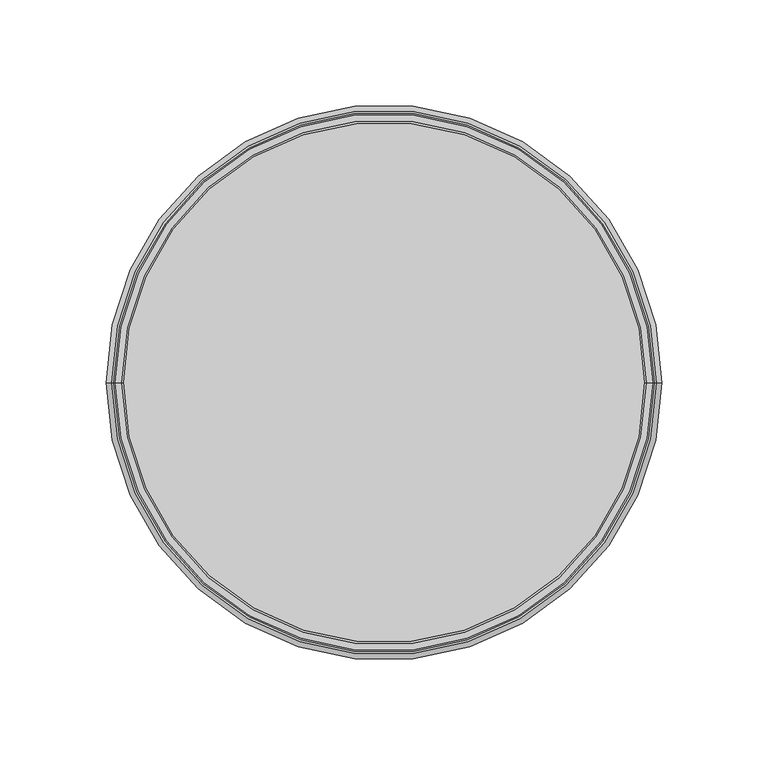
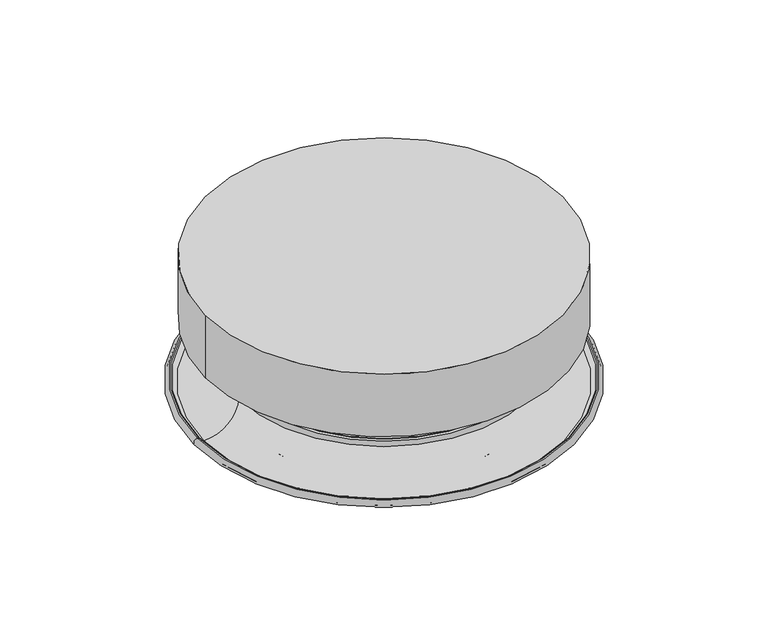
"""IFC4 building model written with IfcOpenShell, lengths in millimetres: air terminal geometry, AI_Bouche aération_Circulaire Reprise : ø250 mm."""

from ifc_helpers import new_model, si_unit, point, frame, origin, origin_2d, place, context, project, spatial, circle_curve, ellipse_curve, trimmed, segment, composite_curve, outline, extrude, source, transform, mapped, element, save
from ifc_brep_helpers import plane_surface, cylinder_surface, revolved_surface, advanced_brep


def air_terminal_f661baf0(model_context):
    return source(origin(), model_context, "Body", "SolidModel", [
        extrude(outline(composite_curve([segment(trimmed(circle_curve(origin_2d(), 122.5), [point((122.5, 0.0))], [point((-122.5, 0.0))], False, "CARTESIAN"), True, "CONTINUOUS"), segment(trimmed(circle_curve(origin_2d(), 122.5), [point((-122.5, 0.0))], [point((122.5, 0.0))], False, "CARTESIAN"), True, "CONTINUOUS")], self_intersect=False)), frame((0.0, 0.0, 41.2), z_axis=(0.0, 0.0, 1.0), x_axis=(1.0, 0.0, 0.0)), (0.0, 0.0, 1.0), 45.4),
        advanced_brep(
        [(-97.4021074, 0.0, 20.3), (97.4021074, 0.0, 20.3), (99.6975243, 0.0, 18.1451243), (-99.6975243, 0.0, 18.1451243), (-95.0, 0.0, 20.3), (95.0, 0.0, 20.3), (-95.0, 0.0, 19.0), (95.0, 0.0, 19.0), (-97.4021074, 0.0, 19.0), (97.4021074, 0.0, 19.0), (-98.4001147, 0.0, 18.0630975), (98.4001147, 0.0, 18.0630975), (-123.5, 0.0, -5.5), (123.5, 0.0, -5.5), (-128.27, 0.0, -5.5), (128.27, 0.0, -5.5), (-128.27, 0.0, -0.7), (128.27, 0.0, -0.7), (-127.27, 0.0, -0.7), (127.27, 0.0, -0.7), (-127.27, 0.0, -2.0), (127.27, 0.0, -2.0), (-128.27, 0.0, -2.0), (128.27, 0.0, -2.0), (-128.27, 0.0, -4.2), (128.27, 0.0, -4.2), (-123.5, 0.0, -4.2), (123.5, 0.0, -4.2)],
        [
            (0, 1, circle_curve(frame((0.0, 0.0, 20.3), z_axis=(0.0, 0.0, -1.0), x_axis=(1.0, 0.0, 0.0)), 97.4021074)),
            (1, 2, circle_curve(frame((97.4021074, 0.0, 18.0), z_axis=(0.0, 1.0, 0.0), x_axis=(1.0, 0.0, 0.0)), 2.3)),
            (2, 3, circle_curve(frame((0.0, 0.0, 18.1451243), z_axis=(0.0, 0.0, 1.0), x_axis=(1.0, 0.0, 0.0)), 99.6975243)),
            (3, 0, circle_curve(frame((-97.4021074, 0.0, 18.0), z_axis=(0.0, 1.0, 0.0), x_axis=(-1.0, 0.0, 0.0)), 2.3)),
            (1, 0, circle_curve(frame((0.0, 0.0, 20.3), z_axis=(0.0, 0.0, -1.0), x_axis=(1.0, 0.0, 0.0)), 97.4021074)),
            (3, 2, circle_curve(frame((0.0, 0.0, 18.1451243), z_axis=(0.0, 0.0, 1.0), x_axis=(1.0, 0.0, 0.0)), 99.6975243)),
            (4, 5, circle_curve(frame((0.0, 0.0, 20.3), z_axis=(0.0, 0.0, -1.0), x_axis=(1.0, 0.0, 0.0)), 95.0)),
            (5, 1),
            (0, 4),
            (5, 4, circle_curve(frame((0.0, 0.0, 20.3), z_axis=(0.0, 0.0, -1.0), x_axis=(1.0, 0.0, 0.0)), 95.0)),
            (6, 7, circle_curve(frame((0.0, 0.0, 19.0), z_axis=(0.0, 0.0, -1.0), x_axis=(1.0, 0.0, 0.0)), 95.0)),
            (7, 5, circle_curve(frame((95.0, 0.0, 19.65), z_axis=(0.0, 1.0, 0.0), x_axis=(1.0, 0.0, 0.0)), 0.65)),
            (4, 6, circle_curve(frame((-95.0, 0.0, 19.65), z_axis=(0.0, 1.0, 0.0), x_axis=(-1.0, 0.0, 0.0)), 0.65)),
            (7, 6, circle_curve(frame((0.0, 0.0, 19.0), z_axis=(0.0, 0.0, -1.0), x_axis=(1.0, 0.0, 0.0)), 95.0)),
            (8, 9, circle_curve(frame((0.0, 0.0, 19.0), z_axis=(0.0, 0.0, -1.0), x_axis=(1.0, 0.0, 0.0)), 97.4021074)),
            (9, 7),
            (6, 8),
            (9, 8, circle_curve(frame((0.0, 0.0, 19.0), z_axis=(0.0, 0.0, -1.0), x_axis=(1.0, 0.0, 0.0)), 97.4021074)),
            (10, 11, circle_curve(frame((0.0, 0.0, 18.0630975), z_axis=(0.0, 0.0, -1.0), x_axis=(1.0, 0.0, 0.0)), 98.4001147)),
            (11, 9, circle_curve(frame((97.4021074, 0.0, 18.0), z_axis=(0.0, -1.0, 0.0), x_axis=(1.0, 0.0, 0.0)), 1.0)),
            (8, 10, circle_curve(frame((-97.4021074, 0.0, 18.0), z_axis=(0.0, -1.0, 0.0), x_axis=(-1.0, 0.0, 0.0)), 1.0)),
            (11, 10, circle_curve(frame((0.0, 0.0, 18.0630975), z_axis=(0.0, 0.0, -1.0), x_axis=(1.0, 0.0, 0.0)), 98.4001147)),
            (12, 13, circle_curve(frame((0.0, 0.0, -5.5), z_axis=(0.0, 0.0, -1.0), x_axis=(1.0, 0.0, 0.0)), 123.5)),
            (13, 11, circle_curve(frame((123.5, 0.0, 19.65), z_axis=(0.0, 1.0, 0.0), x_axis=(1.0, 0.0, 0.0)), 25.15)),
            (10, 12, circle_curve(frame((-123.5, 0.0, 19.65), z_axis=(0.0, 1.0, 0.0), x_axis=(-1.0, 0.0, 0.0)), 25.15)),
            (13, 12, circle_curve(frame((0.0, 0.0, -5.5), z_axis=(0.0, 0.0, -1.0), x_axis=(1.0, 0.0, 0.0)), 123.5)),
            (14, 15, circle_curve(frame((0.0, 0.0, -5.5), z_axis=(0.0, 0.0, -1.0), x_axis=(1.0, 0.0, 0.0)), 128.27)),
            (15, 13),
            (12, 14),
            (15, 14, circle_curve(frame((0.0, 0.0, -5.5), z_axis=(0.0, 0.0, -1.0), x_axis=(1.0, 0.0, 0.0)), 128.27)),
            (16, 17, circle_curve(frame((0.0, 0.0, -0.7), z_axis=(0.0, 0.0, -1.0), x_axis=(1.0, 0.0, 0.0)), 128.27)),
            (17, 15, circle_curve(frame((128.27, 0.0, -3.1), z_axis=(0.0, 1.0, 0.0), x_axis=(1.0, 0.0, 0.0)), 2.4)),
            (14, 16, circle_curve(frame((-128.27, 0.0, -3.1), z_axis=(0.0, 1.0, 0.0), x_axis=(-1.0, 0.0, 0.0)), 2.4)),
            (17, 16, circle_curve(frame((0.0, 0.0, -0.7), z_axis=(0.0, 0.0, -1.0), x_axis=(1.0, 0.0, 0.0)), 128.27)),
            (18, 19, circle_curve(frame((0.0, 0.0, -0.7), z_axis=(0.0, 0.0, -1.0), x_axis=(1.0, 0.0, 0.0)), 127.27)),
            (19, 17),
            (16, 18),
            (19, 18, circle_curve(frame((0.0, 0.0, -0.7), z_axis=(0.0, 0.0, -1.0), x_axis=(1.0, 0.0, 0.0)), 127.27)),
            (20, 21, circle_curve(frame((0.0, 0.0, -2.0), z_axis=(0.0, 0.0, -1.0), x_axis=(1.0, 0.0, 0.0)), 127.27)),
            (21, 19, circle_curve(frame((127.27, 0.0, -1.35), z_axis=(0.0, 1.0, 0.0), x_axis=(1.0, 0.0, 0.0)), 0.65)),
            (18, 20, circle_curve(frame((-127.27, 0.0, -1.35), z_axis=(0.0, 1.0, 0.0), x_axis=(-1.0, 0.0, 0.0)), 0.65)),
            (21, 20, circle_curve(frame((0.0, 0.0, -2.0), z_axis=(0.0, 0.0, -1.0), x_axis=(1.0, 0.0, 0.0)), 127.27)),
            (22, 23, circle_curve(frame((0.0, 0.0, -2.0), z_axis=(0.0, 0.0, -1.0), x_axis=(1.0, 0.0, 0.0)), 128.27)),
            (23, 21),
            (20, 22),
            (23, 22, circle_curve(frame((0.0, 0.0, -2.0), z_axis=(0.0, 0.0, -1.0), x_axis=(1.0, 0.0, 0.0)), 128.27)),
            (24, 25, circle_curve(frame((0.0, 0.0, -4.2), z_axis=(0.0, 0.0, -1.0), x_axis=(1.0, 0.0, 0.0)), 128.27)),
            (25, 23, circle_curve(frame((128.27, 0.0, -3.1), z_axis=(0.0, -1.0, 0.0), x_axis=(1.0, 0.0, 0.0)), 1.1)),
            (22, 24, circle_curve(frame((-128.27, 0.0, -3.1), z_axis=(0.0, -1.0, 0.0), x_axis=(-1.0, 0.0, 0.0)), 1.1)),
            (25, 24, circle_curve(frame((0.0, 0.0, -4.2), z_axis=(0.0, 0.0, -1.0), x_axis=(1.0, 0.0, 0.0)), 128.27)),
            (26, 27, circle_curve(frame((0.0, 0.0, -4.2), z_axis=(0.0, 0.0, -1.0), x_axis=(1.0, 0.0, 0.0)), 123.5)),
            (27, 25),
            (24, 26),
            (27, 26, circle_curve(frame((0.0, 0.0, -4.2), z_axis=(0.0, 0.0, -1.0), x_axis=(1.0, 0.0, 0.0)), 123.5)),
            (2, 27, circle_curve(frame((123.5, 0.0, 19.65), z_axis=(0.0, -1.0, 0.0), x_axis=(1.0, 0.0, 0.0)), 23.85)),
            (26, 3, circle_curve(frame((-123.5, 0.0, 19.65), z_axis=(0.0, -1.0, 0.0), x_axis=(-1.0, 0.0, 0.0)), 23.85)),
        ],
        [
            revolved_surface(trimmed(ellipse_curve(frame((97.4021074, 0.0, 18.0), z_axis=(0.0, -1.0, 0.0), x_axis=(1.0, 0.0, 0.0)), 2.3, 2.3), [point((99.6975243, 0.0, 18.1451243))], [point((97.4021074, 0.0, 20.3))], True, "CARTESIAN"), (0.0, 0.0, 1789.7688894), (0.0, 0.0, 1.0)),
            plane_surface(frame((0.0, 0.0, 20.3), z_axis=(0.0, 0.0, 1.0), x_axis=(1.0, 0.0, 0.0))),
            revolved_surface(trimmed(ellipse_curve(frame((95.0, 0.0, 19.65), z_axis=(0.0, -1.0, 0.0), x_axis=(1.0, 0.0, 0.0)), 0.65, 0.65), [point((95.0, 0.0, 20.3))], [point((95.0, 0.0, 19.0))], True, "CARTESIAN"), (0.0, 0.0, 1789.7688894), (0.0, 0.0, 1.0)),
            plane_surface(frame((0.0, 0.0, 19.0), z_axis=(0.0, 0.0, -1.0), x_axis=(1.0, 0.0, 0.0))),
            revolved_surface(trimmed(ellipse_curve(frame((97.4021074, 0.0, 18.0), z_axis=(0.0, 1.0, 0.0), x_axis=(1.0, 0.0, 0.0)), 1.0, 1.0), [point((97.4021074, 0.0, 19.0))], [point((98.4001147, 0.0, 18.0630975))], True, "CARTESIAN"), (0.0, 0.0, 1789.7688894), (0.0, 0.0, 1.0)),
            revolved_surface(trimmed(ellipse_curve(frame((123.5, 0.0, 19.65), z_axis=(0.0, -1.0, 0.0), x_axis=(1.0, 0.0, 0.0)), 25.15, 25.15), [point((98.4001147, 0.0, 18.0630975))], [point((123.5, 0.0, -5.5))], True, "CARTESIAN"), (0.0, 0.0, 1789.7688894), (0.0, 0.0, 1.0)),
            plane_surface(frame((0.0, 0.0, -5.5), z_axis=(0.0, 0.0, -1.0), x_axis=(1.0, 0.0, 0.0))),
            revolved_surface(trimmed(ellipse_curve(frame((128.27, 0.0, -3.1), z_axis=(0.0, -1.0, 0.0), x_axis=(1.0, 0.0, 0.0)), 2.4, 2.4), [point((128.27, 0.0, -5.5))], [point((128.27, 0.0, -0.7))], True, "CARTESIAN"), (0.0, 0.0, 1789.7688894), (0.0, 0.0, 1.0)),
            plane_surface(frame((0.0, 0.0, -0.7), z_axis=(0.0, 0.0, 1.0), x_axis=(1.0, 0.0, 0.0))),
            revolved_surface(trimmed(ellipse_curve(frame((127.27, 0.0, -1.35), z_axis=(0.0, -1.0, 0.0), x_axis=(1.0, 0.0, 0.0)), 0.65, 0.65), [point((127.27, 0.0, -0.7))], [point((127.27, 0.0, -2.0))], True, "CARTESIAN"), (0.0, 0.0, 1789.7688894), (0.0, 0.0, 1.0)),
            plane_surface(frame((0.0, 0.0, -2.0), z_axis=(0.0, 0.0, -1.0), x_axis=(1.0, 0.0, 0.0))),
            revolved_surface(trimmed(ellipse_curve(frame((128.27, 0.0, -3.1), z_axis=(0.0, 1.0, 0.0), x_axis=(1.0, 0.0, 0.0)), 1.1, 1.1), [point((128.27, 0.0, -2.0))], [point((128.27, 0.0, -4.2))], True, "CARTESIAN"), (0.0, 0.0, 1789.7688894), (0.0, 0.0, 1.0)),
            plane_surface(frame((0.0, 0.0, -4.2), z_axis=(0.0, 0.0, 1.0), x_axis=(1.0, 0.0, 0.0))),
            revolved_surface(trimmed(ellipse_curve(frame((123.5, 0.0, 19.65), z_axis=(0.0, 1.0, 0.0), x_axis=(1.0, 0.0, 0.0)), 23.85, 23.85), [point((123.5, 0.0, -4.2))], [point((99.6975243, 0.0, 18.1451243))], True, "CARTESIAN"), (0.0, 0.0, 1789.7688894), (0.0, 0.0, 1.0)),
        ],
        [
            (0, [[1, 2, 3, 4]]),
            (0, [[5, -4, 6, -2]]),
            (1, [[7, 8, -1, 9]]),
            (1, [[10, -9, -5, -8]]),
            (2, [[11, 12, -7, 13]]),
            (2, [[14, -13, -10, -12]]),
            (3, [[15, 16, -11, 17]]),
            (3, [[18, -17, -14, -16]]),
            (4, [[19, 20, -15, 21]]),
            (4, [[22, -21, -18, -20]]),
            (5, [[23, 24, -19, 25]]),
            (5, [[26, -25, -22, -24]]),
            (6, [[27, 28, -23, 29]]),
            (6, [[30, -29, -26, -28]]),
            (7, [[31, 32, -27, 33]]),
            (7, [[34, -33, -30, -32]]),
            (8, [[35, 36, -31, 37]]),
            (8, [[38, -37, -34, -36]]),
            (9, [[39, 40, -35, 41]]),
            (9, [[42, -41, -38, -40]]),
            (10, [[43, 44, -39, 45]]),
            (10, [[46, -45, -42, -44]]),
            (11, [[47, 48, -43, 49]]),
            (11, [[50, -49, -46, -48]]),
            (12, [[51, 52, -47, 53]]),
            (12, [[54, -53, -50, -52]]),
            (13, [[-3, 55, -51, 56]]),
            (13, [[-6, -56, -54, -55]]),
        ],
    ),
        advanced_brep(
        [(-72.4021074, 0.0, 20.3), (72.4021074, 0.0, 20.3), (74.6975243, 0.0, 18.1451243), (-74.6975243, 0.0, 18.1451243), (-70.0, 0.0, 20.3), (70.0, 0.0, 20.3), (-70.0, 0.0, 19.0), (70.0, 0.0, 19.0), (-72.4021074, 0.0, 19.0), (72.4021074, 0.0, 19.0), (-73.4001147, 0.0, 18.0630975), (73.4001147, 0.0, 18.0630975), (-98.5, 0.0, -5.5), (98.5, 0.0, -5.5), (-103.27, 0.0, -5.5), (103.27, 0.0, -5.5), (-103.27, 0.0, -0.7), (103.27, 0.0, -0.7), (-102.27, 0.0, -0.7), (102.27, 0.0, -0.7), (-102.27, 0.0, -2.0), (102.27, 0.0, -2.0), (-103.27, 0.0, -2.0), (103.27, 0.0, -2.0), (-103.27, 0.0, -4.2), (103.27, 0.0, -4.2), (-98.5, 0.0, -4.2), (98.5, 0.0, -4.2)],
        [
            (0, 1, circle_curve(frame((0.0, 0.0, 20.3), z_axis=(0.0, 0.0, -1.0), x_axis=(1.0, 0.0, 0.0)), 72.4021074)),
            (1, 2, circle_curve(frame((72.4021074, 0.0, 18.0), z_axis=(0.0, 1.0, 0.0), x_axis=(1.0, 0.0, 0.0)), 2.3)),
            (2, 3, circle_curve(frame((0.0, 0.0, 18.1451243), z_axis=(0.0, 0.0, 1.0), x_axis=(1.0, 0.0, 0.0)), 74.6975243)),
            (3, 0, circle_curve(frame((-72.4021074, 0.0, 18.0), z_axis=(0.0, 1.0, 0.0), x_axis=(-1.0, 0.0, 0.0)), 2.3)),
            (1, 0, circle_curve(frame((0.0, 0.0, 20.3), z_axis=(0.0, 0.0, -1.0), x_axis=(1.0, 0.0, 0.0)), 72.4021074)),
            (3, 2, circle_curve(frame((0.0, 0.0, 18.1451243), z_axis=(0.0, 0.0, 1.0), x_axis=(1.0, 0.0, 0.0)), 74.6975243)),
            (4, 5, circle_curve(frame((0.0, 0.0, 20.3), z_axis=(0.0, 0.0, -1.0), x_axis=(1.0, 0.0, 0.0)), 70.0)),
            (5, 1),
            (0, 4),
            (5, 4, circle_curve(frame((0.0, 0.0, 20.3), z_axis=(0.0, 0.0, -1.0), x_axis=(1.0, 0.0, 0.0)), 70.0)),
            (6, 7, circle_curve(frame((0.0, 0.0, 19.0), z_axis=(0.0, 0.0, -1.0), x_axis=(1.0, 0.0, 0.0)), 70.0)),
            (7, 5, circle_curve(frame((70.0, 0.0, 19.65), z_axis=(0.0, 1.0, 0.0), x_axis=(1.0, 0.0, 0.0)), 0.65)),
            (4, 6, circle_curve(frame((-70.0, 0.0, 19.65), z_axis=(0.0, 1.0, 0.0), x_axis=(-1.0, 0.0, 0.0)), 0.65)),
            (7, 6, circle_curve(frame((0.0, 0.0, 19.0), z_axis=(0.0, 0.0, -1.0), x_axis=(1.0, 0.0, 0.0)), 70.0)),
            (8, 9, circle_curve(frame((0.0, 0.0, 19.0), z_axis=(0.0, 0.0, -1.0), x_axis=(1.0, 0.0, 0.0)), 72.4021074)),
            (9, 7),
            (6, 8),
            (9, 8, circle_curve(frame((0.0, 0.0, 19.0), z_axis=(0.0, 0.0, -1.0), x_axis=(1.0, 0.0, 0.0)), 72.4021074)),
            (10, 11, circle_curve(frame((0.0, 0.0, 18.0630975), z_axis=(0.0, 0.0, -1.0), x_axis=(1.0, 0.0, 0.0)), 73.4001147)),
            (11, 9, circle_curve(frame((72.4021074, 0.0, 18.0), z_axis=(0.0, -1.0, 0.0), x_axis=(1.0, 0.0, 0.0)), 1.0)),
            (8, 10, circle_curve(frame((-72.4021074, 0.0, 18.0), z_axis=(0.0, -1.0, 0.0), x_axis=(-1.0, 0.0, 0.0)), 1.0)),
            (11, 10, circle_curve(frame((0.0, 0.0, 18.0630975), z_axis=(0.0, 0.0, -1.0), x_axis=(1.0, 0.0, 0.0)), 73.4001147)),
            (12, 13, circle_curve(frame((0.0, 0.0, -5.5), z_axis=(0.0, 0.0, -1.0), x_axis=(1.0, 0.0, 0.0)), 98.5)),
            (13, 11, circle_curve(frame((98.5, 0.0, 19.65), z_axis=(0.0, 1.0, 0.0), x_axis=(1.0, 0.0, 0.0)), 25.15)),
            (10, 12, circle_curve(frame((-98.5, 0.0, 19.65), z_axis=(0.0, 1.0, 0.0), x_axis=(-1.0, 0.0, 0.0)), 25.15)),
            (13, 12, circle_curve(frame((0.0, 0.0, -5.5), z_axis=(0.0, 0.0, -1.0), x_axis=(1.0, 0.0, 0.0)), 98.5)),
            (14, 15, circle_curve(frame((0.0, 0.0, -5.5), z_axis=(0.0, 0.0, -1.0), x_axis=(1.0, 0.0, 0.0)), 103.27)),
            (15, 13),
            (12, 14),
            (15, 14, circle_curve(frame((0.0, 0.0, -5.5), z_axis=(0.0, 0.0, -1.0), x_axis=(1.0, 0.0, 0.0)), 103.27)),
            (16, 17, circle_curve(frame((0.0, 0.0, -0.7), z_axis=(0.0, 0.0, -1.0), x_axis=(1.0, 0.0, 0.0)), 103.27)),
            (17, 15, circle_curve(frame((103.27, 0.0, -3.1), z_axis=(0.0, 1.0, 0.0), x_axis=(1.0, 0.0, 0.0)), 2.4)),
            (14, 16, circle_curve(frame((-103.27, 0.0, -3.1), z_axis=(0.0, 1.0, 0.0), x_axis=(-1.0, 0.0, 0.0)), 2.4)),
            (17, 16, circle_curve(frame((0.0, 0.0, -0.7), z_axis=(0.0, 0.0, -1.0), x_axis=(1.0, 0.0, 0.0)), 103.27)),
            (18, 19, circle_curve(frame((0.0, 0.0, -0.7), z_axis=(0.0, 0.0, -1.0), x_axis=(1.0, 0.0, 0.0)), 102.27)),
            (19, 17),
            (16, 18),
            (19, 18, circle_curve(frame((0.0, 0.0, -0.7), z_axis=(0.0, 0.0, -1.0), x_axis=(1.0, 0.0, 0.0)), 102.27)),
            (20, 21, circle_curve(frame((0.0, 0.0, -2.0), z_axis=(0.0, 0.0, -1.0), x_axis=(1.0, 0.0, 0.0)), 102.27)),
            (21, 19, circle_curve(frame((102.27, 0.0, -1.35), z_axis=(0.0, 1.0, 0.0), x_axis=(1.0, 0.0, 0.0)), 0.65)),
            (18, 20, circle_curve(frame((-102.27, 0.0, -1.35), z_axis=(0.0, 1.0, 0.0), x_axis=(-1.0, 0.0, 0.0)), 0.65)),
            (21, 20, circle_curve(frame((0.0, 0.0, -2.0), z_axis=(0.0, 0.0, -1.0), x_axis=(1.0, 0.0, 0.0)), 102.27)),
            (22, 23, circle_curve(frame((0.0, 0.0, -2.0), z_axis=(0.0, 0.0, -1.0), x_axis=(1.0, 0.0, 0.0)), 103.27)),
            (23, 21),
            (20, 22),
            (23, 22, circle_curve(frame((0.0, 0.0, -2.0), z_axis=(0.0, 0.0, -1.0), x_axis=(1.0, 0.0, 0.0)), 103.27)),
            (24, 25, circle_curve(frame((0.0, 0.0, -4.2), z_axis=(0.0, 0.0, -1.0), x_axis=(1.0, 0.0, 0.0)), 103.27)),
            (25, 23, circle_curve(frame((103.27, 0.0, -3.1), z_axis=(0.0, -1.0, 0.0), x_axis=(1.0, 0.0, 0.0)), 1.1)),
            (22, 24, circle_curve(frame((-103.27, 0.0, -3.1), z_axis=(0.0, -1.0, 0.0), x_axis=(-1.0, 0.0, 0.0)), 1.1)),
            (25, 24, circle_curve(frame((0.0, 0.0, -4.2), z_axis=(0.0, 0.0, -1.0), x_axis=(1.0, 0.0, 0.0)), 103.27)),
            (26, 27, circle_curve(frame((0.0, 0.0, -4.2), z_axis=(0.0, 0.0, -1.0), x_axis=(1.0, 0.0, 0.0)), 98.5)),
            (27, 25),
            (24, 26),
            (27, 26, circle_curve(frame((0.0, 0.0, -4.2), z_axis=(0.0, 0.0, -1.0), x_axis=(1.0, 0.0, 0.0)), 98.5)),
            (2, 27, circle_curve(frame((98.5, 0.0, 19.65), z_axis=(0.0, -1.0, 0.0), x_axis=(1.0, 0.0, 0.0)), 23.85)),
            (26, 3, circle_curve(frame((-98.5, 0.0, 19.65), z_axis=(0.0, -1.0, 0.0), x_axis=(-1.0, 0.0, 0.0)), 23.85)),
        ],
        [
            revolved_surface(trimmed(ellipse_curve(frame((72.4021074, 0.0, 18.0), z_axis=(0.0, -1.0, 0.0), x_axis=(1.0, 0.0, 0.0)), 2.3, 2.3), [point((74.6975243, 0.0, 18.1451243))], [point((72.4021074, 0.0, 20.3))], True, "CARTESIAN"), (0.0, 0.0, 1789.7688894), (0.0, 0.0, 1.0)),
            plane_surface(frame((0.0, 0.0, 20.3), z_axis=(0.0, 0.0, 1.0), x_axis=(1.0, 0.0, 0.0))),
            revolved_surface(trimmed(ellipse_curve(frame((70.0, 0.0, 19.65), z_axis=(0.0, -1.0, 0.0), x_axis=(1.0, 0.0, 0.0)), 0.65, 0.65), [point((70.0, 0.0, 20.3))], [point((70.0, 0.0, 19.0))], True, "CARTESIAN"), (0.0, 0.0, 1789.7688894), (0.0, 0.0, 1.0)),
            plane_surface(frame((0.0, 0.0, 19.0), z_axis=(0.0, 0.0, -1.0), x_axis=(1.0, 0.0, 0.0))),
            revolved_surface(trimmed(ellipse_curve(frame((72.4021074, 0.0, 18.0), z_axis=(0.0, 1.0, 0.0), x_axis=(1.0, 0.0, 0.0)), 1.0, 1.0), [point((72.4021074, 0.0, 19.0))], [point((73.4001147, 0.0, 18.0630975))], True, "CARTESIAN"), (0.0, 0.0, 1789.7688894), (0.0, 0.0, 1.0)),
            revolved_surface(trimmed(ellipse_curve(frame((98.5, 0.0, 19.65), z_axis=(0.0, -1.0, 0.0), x_axis=(1.0, 0.0, 0.0)), 25.15, 25.15), [point((73.4001147, 0.0, 18.0630975))], [point((98.5, 0.0, -5.5))], True, "CARTESIAN"), (0.0, 0.0, 1789.7688894), (0.0, 0.0, 1.0)),
            plane_surface(frame((0.0, 0.0, -5.5), z_axis=(0.0, 0.0, -1.0), x_axis=(1.0, 0.0, 0.0))),
            revolved_surface(trimmed(ellipse_curve(frame((103.27, 0.0, -3.1), z_axis=(0.0, -1.0, 0.0), x_axis=(1.0, 0.0, 0.0)), 2.4, 2.4), [point((103.27, 0.0, -5.5))], [point((103.27, 0.0, -0.7))], True, "CARTESIAN"), (0.0, 0.0, 1789.7688894), (0.0, 0.0, 1.0)),
            plane_surface(frame((0.0, 0.0, -0.7), z_axis=(0.0, 0.0, 1.0), x_axis=(1.0, 0.0, 0.0))),
            revolved_surface(trimmed(ellipse_curve(frame((102.27, 0.0, -1.35), z_axis=(0.0, -1.0, 0.0), x_axis=(1.0, 0.0, 0.0)), 0.65, 0.65), [point((102.27, 0.0, -0.7))], [point((102.27, 0.0, -2.0))], True, "CARTESIAN"), (0.0, 0.0, 1789.7688894), (0.0, 0.0, 1.0)),
            plane_surface(frame((0.0, 0.0, -2.0), z_axis=(0.0, 0.0, -1.0), x_axis=(1.0, 0.0, 0.0))),
            revolved_surface(trimmed(ellipse_curve(frame((103.27, 0.0, -3.1), z_axis=(0.0, 1.0, 0.0), x_axis=(1.0, 0.0, 0.0)), 1.1, 1.1), [point((103.27, 0.0, -2.0))], [point((103.27, 0.0, -4.2))], True, "CARTESIAN"), (0.0, 0.0, 1789.7688894), (0.0, 0.0, 1.0)),
            plane_surface(frame((0.0, 0.0, -4.2), z_axis=(0.0, 0.0, 1.0), x_axis=(1.0, 0.0, 0.0))),
            revolved_surface(trimmed(ellipse_curve(frame((98.5, 0.0, 19.65), z_axis=(0.0, 1.0, 0.0), x_axis=(1.0, 0.0, 0.0)), 23.85, 23.85), [point((98.5, 0.0, -4.2))], [point((74.6975243, 0.0, 18.1451243))], True, "CARTESIAN"), (0.0, 0.0, 1789.7688894), (0.0, 0.0, 1.0)),
        ],
        [
            (0, [[1, 2, 3, 4]]),
            (0, [[5, -4, 6, -2]]),
            (1, [[7, 8, -1, 9]]),
            (1, [[10, -9, -5, -8]]),
            (2, [[11, 12, -7, 13]]),
            (2, [[14, -13, -10, -12]]),
            (3, [[15, 16, -11, 17]]),
            (3, [[18, -17, -14, -16]]),
            (4, [[19, 20, -15, 21]]),
            (4, [[22, -21, -18, -20]]),
            (5, [[23, 24, -19, 25]]),
            (5, [[26, -25, -22, -24]]),
            (6, [[27, 28, -23, 29]]),
            (6, [[30, -29, -26, -28]]),
            (7, [[31, 32, -27, 33]]),
            (7, [[34, -33, -30, -32]]),
            (8, [[35, 36, -31, 37]]),
            (8, [[38, -37, -34, -36]]),
            (9, [[39, 40, -35, 41]]),
            (9, [[42, -41, -38, -40]]),
            (10, [[43, 44, -39, 45]]),
            (10, [[46, -45, -42, -44]]),
            (11, [[47, 48, -43, 49]]),
            (11, [[50, -49, -46, -48]]),
            (12, [[51, 52, -47, 53]]),
            (12, [[54, -53, -50, -52]]),
            (13, [[-3, 55, -51, 56]]),
            (13, [[-6, -56, -54, -55]]),
        ],
    ),
        advanced_brep(
        [(-42.4021074, 0.0, 20.3), (42.4021074, 0.0, 20.3), (44.6975243, 0.0, 18.1451243), (-44.6975243, 0.0, 18.1451243), (-40.0, 0.0, 20.3), (40.0, 0.0, 20.3), (-40.0, 0.0, 19.0), (40.0, 0.0, 19.0), (-42.4021074, 0.0, 19.0), (42.4021074, 0.0, 19.0), (-43.4001147, 0.0, 18.0630975), (43.4001147, 0.0, 18.0630975), (-68.5, 0.0, -5.5), (68.5, 0.0, -5.5), (-73.27, 0.0, -5.5), (73.27, 0.0, -5.5), (-73.27, 0.0, -0.7), (73.27, 0.0, -0.7), (-72.27, 0.0, -0.7), (72.27, 0.0, -0.7), (-72.27, 0.0, -2.0), (72.27, 0.0, -2.0), (-73.27, 0.0, -2.0), (73.27, 0.0, -2.0), (-73.27, 0.0, -4.2), (73.27, 0.0, -4.2), (-68.5, 0.0, -4.2), (68.5, 0.0, -4.2)],
        [
            (0, 1, circle_curve(frame((0.0, 0.0, 20.3), z_axis=(0.0, 0.0, -1.0), x_axis=(1.0, 0.0, 0.0)), 42.4021074)),
            (1, 2, circle_curve(frame((42.4021074, 0.0, 18.0), z_axis=(0.0, 1.0, 0.0), x_axis=(1.0, 0.0, 0.0)), 2.3)),
            (2, 3, circle_curve(frame((0.0, 0.0, 18.1451243), z_axis=(0.0, 0.0, 1.0), x_axis=(1.0, 0.0, 0.0)), 44.6975243)),
            (3, 0, circle_curve(frame((-42.4021074, 0.0, 18.0), z_axis=(0.0, 1.0, 0.0), x_axis=(-1.0, 0.0, 0.0)), 2.3)),
            (1, 0, circle_curve(frame((0.0, 0.0, 20.3), z_axis=(0.0, 0.0, -1.0), x_axis=(1.0, 0.0, 0.0)), 42.4021074)),
            (3, 2, circle_curve(frame((0.0, 0.0, 18.1451243), z_axis=(0.0, 0.0, 1.0), x_axis=(1.0, 0.0, 0.0)), 44.6975243)),
            (4, 5, circle_curve(frame((0.0, 0.0, 20.3), z_axis=(0.0, 0.0, -1.0), x_axis=(1.0, 0.0, 0.0)), 40.0)),
            (5, 1),
            (0, 4),
            (5, 4, circle_curve(frame((0.0, 0.0, 20.3), z_axis=(0.0, 0.0, -1.0), x_axis=(1.0, 0.0, 0.0)), 40.0)),
            (6, 7, circle_curve(frame((0.0, 0.0, 19.0), z_axis=(0.0, 0.0, -1.0), x_axis=(1.0, 0.0, 0.0)), 40.0)),
            (7, 5, circle_curve(frame((40.0, 0.0, 19.65), z_axis=(0.0, 1.0, 0.0), x_axis=(1.0, 0.0, 0.0)), 0.65)),
            (4, 6, circle_curve(frame((-40.0, 0.0, 19.65), z_axis=(0.0, 1.0, 0.0), x_axis=(-1.0, 0.0, 0.0)), 0.65)),
            (7, 6, circle_curve(frame((0.0, 0.0, 19.0), z_axis=(0.0, 0.0, -1.0), x_axis=(1.0, 0.0, 0.0)), 40.0)),
            (8, 9, circle_curve(frame((0.0, 0.0, 19.0), z_axis=(0.0, 0.0, -1.0), x_axis=(1.0, 0.0, 0.0)), 42.4021074)),
            (9, 7),
            (6, 8),
            (9, 8, circle_curve(frame((0.0, 0.0, 19.0), z_axis=(0.0, 0.0, -1.0), x_axis=(1.0, 0.0, 0.0)), 42.4021074)),
            (10, 11, circle_curve(frame((0.0, 0.0, 18.0630975), z_axis=(0.0, 0.0, -1.0), x_axis=(1.0, 0.0, 0.0)), 43.4001147)),
            (11, 9, circle_curve(frame((42.4021074, 0.0, 18.0), z_axis=(0.0, -1.0, 0.0), x_axis=(1.0, 0.0, 0.0)), 1.0)),
            (8, 10, circle_curve(frame((-42.4021074, 0.0, 18.0), z_axis=(0.0, -1.0, 0.0), x_axis=(-1.0, 0.0, 0.0)), 1.0)),
            (11, 10, circle_curve(frame((0.0, 0.0, 18.0630975), z_axis=(0.0, 0.0, -1.0), x_axis=(1.0, 0.0, 0.0)), 43.4001147)),
            (12, 13, circle_curve(frame((0.0, 0.0, -5.5), z_axis=(0.0, 0.0, -1.0), x_axis=(1.0, 0.0, 0.0)), 68.5)),
            (13, 11, circle_curve(frame((68.5, 0.0, 19.65), z_axis=(0.0, 1.0, 0.0), x_axis=(1.0, 0.0, 0.0)), 25.15)),
            (10, 12, circle_curve(frame((-68.5, 0.0, 19.65), z_axis=(0.0, 1.0, 0.0), x_axis=(-1.0, 0.0, 0.0)), 25.15)),
            (13, 12, circle_curve(frame((0.0, 0.0, -5.5), z_axis=(0.0, 0.0, -1.0), x_axis=(1.0, 0.0, 0.0)), 68.5)),
            (14, 15, circle_curve(frame((0.0, 0.0, -5.5), z_axis=(0.0, 0.0, -1.0), x_axis=(1.0, 0.0, 0.0)), 73.27)),
            (15, 13),
            (12, 14),
            (15, 14, circle_curve(frame((0.0, 0.0, -5.5), z_axis=(0.0, 0.0, -1.0), x_axis=(1.0, 0.0, 0.0)), 73.27)),
            (16, 17, circle_curve(frame((0.0, 0.0, -0.7), z_axis=(0.0, 0.0, -1.0), x_axis=(1.0, 0.0, 0.0)), 73.27)),
            (17, 15, circle_curve(frame((73.27, 0.0, -3.1), z_axis=(0.0, 1.0, 0.0), x_axis=(1.0, 0.0, 0.0)), 2.4)),
            (14, 16, circle_curve(frame((-73.27, 0.0, -3.1), z_axis=(0.0, 1.0, 0.0), x_axis=(-1.0, 0.0, 0.0)), 2.4)),
            (17, 16, circle_curve(frame((0.0, 0.0, -0.7), z_axis=(0.0, 0.0, -1.0), x_axis=(1.0, 0.0, 0.0)), 73.27)),
            (18, 19, circle_curve(frame((0.0, 0.0, -0.7), z_axis=(0.0, 0.0, -1.0), x_axis=(1.0, 0.0, 0.0)), 72.27)),
            (19, 17),
            (16, 18),
            (19, 18, circle_curve(frame((0.0, 0.0, -0.7), z_axis=(0.0, 0.0, -1.0), x_axis=(1.0, 0.0, 0.0)), 72.27)),
            (20, 21, circle_curve(frame((0.0, 0.0, -2.0), z_axis=(0.0, 0.0, -1.0), x_axis=(1.0, 0.0, 0.0)), 72.27)),
            (21, 19, circle_curve(frame((72.27, 0.0, -1.35), z_axis=(0.0, 1.0, 0.0), x_axis=(1.0, 0.0, 0.0)), 0.65)),
            (18, 20, circle_curve(frame((-72.27, 0.0, -1.35), z_axis=(0.0, 1.0, 0.0), x_axis=(-1.0, 0.0, 0.0)), 0.65)),
            (21, 20, circle_curve(frame((0.0, 0.0, -2.0), z_axis=(0.0, 0.0, -1.0), x_axis=(1.0, 0.0, 0.0)), 72.27)),
            (22, 23, circle_curve(frame((0.0, 0.0, -2.0), z_axis=(0.0, 0.0, -1.0), x_axis=(1.0, 0.0, 0.0)), 73.27)),
            (23, 21),
            (20, 22),
            (23, 22, circle_curve(frame((0.0, 0.0, -2.0), z_axis=(0.0, 0.0, -1.0), x_axis=(1.0, 0.0, 0.0)), 73.27)),
            (24, 25, circle_curve(frame((0.0, 0.0, -4.2), z_axis=(0.0, 0.0, -1.0), x_axis=(1.0, 0.0, 0.0)), 73.27)),
            (25, 23, circle_curve(frame((73.27, 0.0, -3.1), z_axis=(0.0, -1.0, 0.0), x_axis=(1.0, 0.0, 0.0)), 1.1)),
            (22, 24, circle_curve(frame((-73.27, 0.0, -3.1), z_axis=(0.0, -1.0, 0.0), x_axis=(-1.0, 0.0, 0.0)), 1.1)),
            (25, 24, circle_curve(frame((0.0, 0.0, -4.2), z_axis=(0.0, 0.0, -1.0), x_axis=(1.0, 0.0, 0.0)), 73.27)),
            (26, 27, circle_curve(frame((0.0, 0.0, -4.2), z_axis=(0.0, 0.0, -1.0), x_axis=(1.0, 0.0, 0.0)), 68.5)),
            (27, 25),
            (24, 26),
            (27, 26, circle_curve(frame((0.0, 0.0, -4.2), z_axis=(0.0, 0.0, -1.0), x_axis=(1.0, 0.0, 0.0)), 68.5)),
            (2, 27, circle_curve(frame((68.5, 0.0, 19.65), z_axis=(0.0, -1.0, 0.0), x_axis=(1.0, 0.0, 0.0)), 23.85)),
            (26, 3, circle_curve(frame((-68.5, 0.0, 19.65), z_axis=(0.0, -1.0, 0.0), x_axis=(-1.0, 0.0, 0.0)), 23.85)),
        ],
        [
            revolved_surface(trimmed(ellipse_curve(frame((42.4021074, 0.0, 18.0), z_axis=(0.0, -1.0, 0.0), x_axis=(1.0, 0.0, 0.0)), 2.3, 2.3), [point((44.6975243, 0.0, 18.1451243))], [point((42.4021074, 0.0, 20.3))], True, "CARTESIAN"), (0.0, 0.0, 1789.7688894), (0.0, 0.0, 1.0)),
            plane_surface(frame((0.0, 0.0, 20.3), z_axis=(0.0, 0.0, 1.0), x_axis=(1.0, 0.0, 0.0))),
            revolved_surface(trimmed(ellipse_curve(frame((40.0, 0.0, 19.65), z_axis=(0.0, -1.0, 0.0), x_axis=(1.0, 0.0, 0.0)), 0.65, 0.65), [point((40.0, 0.0, 20.3))], [point((40.0, 0.0, 19.0))], True, "CARTESIAN"), (0.0, 0.0, 1789.7688894), (0.0, 0.0, 1.0)),
            plane_surface(frame((0.0, 0.0, 19.0), z_axis=(0.0, 0.0, -1.0), x_axis=(1.0, 0.0, 0.0))),
            revolved_surface(trimmed(ellipse_curve(frame((42.4021074, 0.0, 18.0), z_axis=(0.0, 1.0, 0.0), x_axis=(1.0, 0.0, 0.0)), 1.0, 1.0), [point((42.4021074, 0.0, 19.0))], [point((43.4001147, 0.0, 18.0630975))], True, "CARTESIAN"), (0.0, 0.0, 1789.7688894), (0.0, 0.0, 1.0)),
            revolved_surface(trimmed(ellipse_curve(frame((68.5, 0.0, 19.65), z_axis=(0.0, -1.0, 0.0), x_axis=(1.0, 0.0, 0.0)), 25.15, 25.15), [point((43.4001147, 0.0, 18.0630975))], [point((68.5, 0.0, -5.5))], True, "CARTESIAN"), (0.0, 0.0, 1789.7688894), (0.0, 0.0, 1.0)),
            plane_surface(frame((0.0, 0.0, -5.5), z_axis=(0.0, 0.0, -1.0), x_axis=(1.0, 0.0, 0.0))),
            revolved_surface(trimmed(ellipse_curve(frame((73.27, 0.0, -3.1), z_axis=(0.0, -1.0, 0.0), x_axis=(1.0, 0.0, 0.0)), 2.4, 2.4), [point((73.27, 0.0, -5.5))], [point((73.27, 0.0, -0.7))], True, "CARTESIAN"), (0.0, 0.0, 1789.7688894), (0.0, 0.0, 1.0)),
            plane_surface(frame((0.0, 0.0, -0.7), z_axis=(0.0, 0.0, 1.0), x_axis=(1.0, 0.0, 0.0))),
            revolved_surface(trimmed(ellipse_curve(frame((72.27, 0.0, -1.35), z_axis=(0.0, -1.0, 0.0), x_axis=(1.0, 0.0, 0.0)), 0.65, 0.65), [point((72.27, 0.0, -0.7))], [point((72.27, 0.0, -2.0))], True, "CARTESIAN"), (0.0, 0.0, 1789.7688894), (0.0, 0.0, 1.0)),
            plane_surface(frame((0.0, 0.0, -2.0), z_axis=(0.0, 0.0, -1.0), x_axis=(1.0, 0.0, 0.0))),
            revolved_surface(trimmed(ellipse_curve(frame((73.27, 0.0, -3.1), z_axis=(0.0, 1.0, 0.0), x_axis=(1.0, 0.0, 0.0)), 1.1, 1.1), [point((73.27, 0.0, -2.0))], [point((73.27, 0.0, -4.2))], True, "CARTESIAN"), (0.0, 0.0, 1789.7688894), (0.0, 0.0, 1.0)),
            plane_surface(frame((0.0, 0.0, -4.2), z_axis=(0.0, 0.0, 1.0), x_axis=(1.0, 0.0, 0.0))),
            revolved_surface(trimmed(ellipse_curve(frame((68.5, 0.0, 19.65), z_axis=(0.0, 1.0, 0.0), x_axis=(1.0, 0.0, 0.0)), 23.85, 23.85), [point((68.5, 0.0, -4.2))], [point((44.6975243, 0.0, 18.1451243))], True, "CARTESIAN"), (0.0, 0.0, 1789.7688894), (0.0, 0.0, 1.0)),
        ],
        [
            (0, [[1, 2, 3, 4]]),
            (0, [[5, -4, 6, -2]]),
            (1, [[7, 8, -1, 9]]),
            (1, [[10, -9, -5, -8]]),
            (2, [[11, 12, -7, 13]]),
            (2, [[14, -13, -10, -12]]),
            (3, [[15, 16, -11, 17]]),
            (3, [[18, -17, -14, -16]]),
            (4, [[19, 20, -15, 21]]),
            (4, [[22, -21, -18, -20]]),
            (5, [[23, 24, -19, 25]]),
            (5, [[26, -25, -22, -24]]),
            (6, [[27, 28, -23, 29]]),
            (6, [[30, -29, -26, -28]]),
            (7, [[31, 32, -27, 33]]),
            (7, [[34, -33, -30, -32]]),
            (8, [[35, 36, -31, 37]]),
            (8, [[38, -37, -34, -36]]),
            (9, [[39, 40, -35, 41]]),
            (9, [[42, -41, -38, -40]]),
            (10, [[43, 44, -39, 45]]),
            (10, [[46, -45, -42, -44]]),
            (11, [[47, 48, -43, 49]]),
            (11, [[50, -49, -46, -48]]),
            (12, [[51, 52, -47, 53]]),
            (12, [[54, -53, -50, -52]]),
            (13, [[-3, 55, -51, 56]]),
            (13, [[-6, -56, -54, -55]]),
        ],
    ),
        advanced_brep(
        [(-41.27, 0.0, -5.5), (41.27, 0.0, -5.5), (36.5, 0.0, -5.5), (-36.5, 0.0, -5.5), (-41.27, 0.0, -0.7), (41.27, 0.0, -0.7), (-40.27, 0.0, -0.7), (40.27, 0.0, -0.7), (-40.27, 0.0, -2.0), (40.27, 0.0, -2.0), (-41.27, 0.0, -2.0), (41.27, 0.0, -2.0), (-41.27, 0.0, -4.2), (41.27, 0.0, -4.2), (-36.5, 0.0, -4.2), (36.5, 0.0, -4.2), (-12.6975243, 0.0, 18.1451243), (12.6975243, 0.0, 18.1451243), (-10.4021074, 0.0, 20.3), (10.4021074, 0.0, 20.3), (0.0, 0.0, 20.3), (-5.8512508, 0.0, 14.3598455), (5.8512508, 0.0, 14.3598455), (0.0, 0.0, 14.3598455), (-6.85, 0.0, 15.3098455), (6.85, 0.0, 15.3098455), (-6.85, 0.0, 19.0), (6.85, 0.0, 19.0), (-10.4021074, 0.0, 19.0), (10.4021074, 0.0, 19.0), (-11.4001147, 0.0, 18.0630975), (11.4001147, 0.0, 18.0630975)],
        [
            (0, 1, circle_curve(frame((0.0, 0.0, -5.5), z_axis=(0.0, 0.0, -1.0), x_axis=(1.0, 0.0, 0.0)), 41.27)),
            (1, 2),
            (2, 3, circle_curve(frame((0.0, 0.0, -5.5), z_axis=(0.0, 0.0, 1.0), x_axis=(1.0, 0.0, 0.0)), 36.5)),
            (3, 0),
            (1, 0, circle_curve(frame((0.0, 0.0, -5.5), z_axis=(0.0, 0.0, -1.0), x_axis=(1.0, 0.0, 0.0)), 41.27)),
            (3, 2, circle_curve(frame((0.0, 0.0, -5.5), z_axis=(0.0, 0.0, 1.0), x_axis=(1.0, 0.0, 0.0)), 36.5)),
            (4, 5, circle_curve(frame((0.0, 0.0, -0.7), z_axis=(0.0, 0.0, -1.0), x_axis=(1.0, 0.0, 0.0)), 41.27)),
            (5, 1, circle_curve(frame((41.27, 0.0, -3.1), z_axis=(0.0, 1.0, 0.0), x_axis=(1.0, 0.0, 0.0)), 2.4)),
            (0, 4, circle_curve(frame((-41.27, 0.0, -3.1), z_axis=(0.0, 1.0, 0.0), x_axis=(-1.0, 0.0, 0.0)), 2.4)),
            (5, 4, circle_curve(frame((0.0, 0.0, -0.7), z_axis=(0.0, 0.0, -1.0), x_axis=(1.0, 0.0, 0.0)), 41.27)),
            (6, 7, circle_curve(frame((0.0, 0.0, -0.7), z_axis=(0.0, 0.0, -1.0), x_axis=(1.0, 0.0, 0.0)), 40.27)),
            (7, 5),
            (4, 6),
            (7, 6, circle_curve(frame((0.0, 0.0, -0.7), z_axis=(0.0, 0.0, -1.0), x_axis=(1.0, 0.0, 0.0)), 40.27)),
            (8, 9, circle_curve(frame((0.0, 0.0, -2.0), z_axis=(0.0, 0.0, -1.0), x_axis=(1.0, 0.0, 0.0)), 40.27)),
            (9, 7, circle_curve(frame((40.27, 0.0, -1.35), z_axis=(0.0, 1.0, 0.0), x_axis=(1.0, 0.0, 0.0)), 0.65)),
            (6, 8, circle_curve(frame((-40.27, 0.0, -1.35), z_axis=(0.0, 1.0, 0.0), x_axis=(-1.0, 0.0, 0.0)), 0.65)),
            (9, 8, circle_curve(frame((0.0, 0.0, -2.0), z_axis=(0.0, 0.0, -1.0), x_axis=(1.0, 0.0, 0.0)), 40.27)),
            (10, 11, circle_curve(frame((0.0, 0.0, -2.0), z_axis=(0.0, 0.0, -1.0), x_axis=(1.0, 0.0, 0.0)), 41.27)),
            (11, 9),
            (8, 10),
            (11, 10, circle_curve(frame((0.0, 0.0, -2.0), z_axis=(0.0, 0.0, -1.0), x_axis=(1.0, 0.0, 0.0)), 41.27)),
            (12, 13, circle_curve(frame((0.0, 0.0, -4.2), z_axis=(0.0, 0.0, -1.0), x_axis=(1.0, 0.0, 0.0)), 41.27)),
            (13, 11, circle_curve(frame((41.27, 0.0, -3.1), z_axis=(0.0, -1.0, 0.0), x_axis=(1.0, 0.0, 0.0)), 1.1)),
            (10, 12, circle_curve(frame((-41.27, 0.0, -3.1), z_axis=(0.0, -1.0, 0.0), x_axis=(-1.0, 0.0, 0.0)), 1.1)),
            (13, 12, circle_curve(frame((0.0, 0.0, -4.2), z_axis=(0.0, 0.0, -1.0), x_axis=(1.0, 0.0, 0.0)), 41.27)),
            (14, 15, circle_curve(frame((0.0, 0.0, -4.2), z_axis=(0.0, 0.0, -1.0), x_axis=(1.0, 0.0, 0.0)), 36.5)),
            (15, 13),
            (12, 14),
            (15, 14, circle_curve(frame((0.0, 0.0, -4.2), z_axis=(0.0, 0.0, -1.0), x_axis=(1.0, 0.0, 0.0)), 36.5)),
            (16, 17, circle_curve(frame((0.0, 0.0, 18.1451243), z_axis=(0.0, 0.0, -1.0), x_axis=(1.0, 0.0, 0.0)), 12.6975243)),
            (17, 15, circle_curve(frame((36.5, 0.0, 19.65), z_axis=(0.0, -1.0, 0.0), x_axis=(1.0, 0.0, 0.0)), 23.85)),
            (14, 16, circle_curve(frame((-36.5, 0.0, 19.65), z_axis=(0.0, -1.0, 0.0), x_axis=(-1.0, 0.0, 0.0)), 23.85)),
            (17, 16, circle_curve(frame((0.0, 0.0, 18.1451243), z_axis=(0.0, 0.0, -1.0), x_axis=(1.0, 0.0, 0.0)), 12.6975243)),
            (18, 19, circle_curve(frame((0.0, 0.0, 20.3), z_axis=(0.0, 0.0, -1.0), x_axis=(1.0, 0.0, 0.0)), 10.4021074)),
            (19, 17, circle_curve(frame((10.4021074, 0.0, 18.0), z_axis=(0.0, 1.0, 0.0), x_axis=(1.0, 0.0, 0.0)), 2.3)),
            (16, 18, circle_curve(frame((-10.4021074, 0.0, 18.0), z_axis=(0.0, 1.0, 0.0), x_axis=(-1.0, 0.0, 0.0)), 2.3)),
            (19, 18, circle_curve(frame((0.0, 0.0, 20.3), z_axis=(0.0, 0.0, -1.0), x_axis=(1.0, 0.0, 0.0)), 10.4021074)),
            (20, 19),
            (18, 20),
            (21, 22, circle_curve(frame((0.0, 0.0, 14.3598455), z_axis=(0.0, 0.0, -1.0), x_axis=(1.0, 0.0, 0.0)), 5.8512508)),
            (22, 23),
            (23, 21),
            (22, 21, circle_curve(frame((0.0, 0.0, 14.3598455), z_axis=(0.0, 0.0, -1.0), x_axis=(1.0, 0.0, 0.0)), 5.8512508)),
            (24, 25, circle_curve(frame((0.0, 0.0, 15.3098455), z_axis=(0.0, 0.0, -1.0), x_axis=(1.0, 0.0, 0.0)), 6.85)),
            (25, 22, circle_curve(frame((5.8512508, 0.0, 15.3598455), z_axis=(0.0, 1.0, 0.0), x_axis=(1.0, 0.0, 0.0)), 1.0)),
            (21, 24, circle_curve(frame((-5.8512508, 0.0, 15.3598455), z_axis=(0.0, 1.0, 0.0), x_axis=(-1.0, 0.0, 0.0)), 1.0)),
            (25, 24, circle_curve(frame((0.0, 0.0, 15.3098455), z_axis=(0.0, 0.0, -1.0), x_axis=(1.0, 0.0, 0.0)), 6.85)),
            (26, 27, circle_curve(frame((0.0, 0.0, 19.0), z_axis=(0.0, 0.0, -1.0), x_axis=(1.0, 0.0, 0.0)), 6.85)),
            (27, 25),
            (24, 26),
            (27, 26, circle_curve(frame((0.0, 0.0, 19.0), z_axis=(0.0, 0.0, -1.0), x_axis=(1.0, 0.0, 0.0)), 6.85)),
            (28, 29, circle_curve(frame((0.0, 0.0, 19.0), z_axis=(0.0, 0.0, -1.0), x_axis=(1.0, 0.0, 0.0)), 10.4021074)),
            (29, 27),
            (26, 28),
            (29, 28, circle_curve(frame((0.0, 0.0, 19.0), z_axis=(0.0, 0.0, -1.0), x_axis=(1.0, 0.0, 0.0)), 10.4021074)),
            (30, 31, circle_curve(frame((0.0, 0.0, 18.0630975), z_axis=(0.0, 0.0, -1.0), x_axis=(1.0, 0.0, 0.0)), 11.4001147)),
            (31, 29, circle_curve(frame((10.4021074, 0.0, 18.0), z_axis=(0.0, -1.0, 0.0), x_axis=(1.0, 0.0, 0.0)), 1.0)),
            (28, 30, circle_curve(frame((-10.4021074, 0.0, 18.0), z_axis=(0.0, -1.0, 0.0), x_axis=(-1.0, 0.0, 0.0)), 1.0)),
            (31, 30, circle_curve(frame((0.0, 0.0, 18.0630975), z_axis=(0.0, 0.0, -1.0), x_axis=(1.0, 0.0, 0.0)), 11.4001147)),
            (2, 31, circle_curve(frame((36.5, 0.0, 19.65), z_axis=(0.0, 1.0, 0.0), x_axis=(1.0, 0.0, 0.0)), 25.15)),
            (30, 3, circle_curve(frame((-36.5, 0.0, 19.65), z_axis=(0.0, 1.0, 0.0), x_axis=(-1.0, 0.0, 0.0)), 25.15)),
        ],
        [
            plane_surface(frame((0.0, 0.0, -5.5), z_axis=(0.0, 0.0, -1.0), x_axis=(1.0, 0.0, 0.0))),
            revolved_surface(trimmed(ellipse_curve(frame((41.27, 0.0, -3.1), z_axis=(0.0, -1.0, 0.0), x_axis=(1.0, 0.0, 0.0)), 2.4, 2.4), [point((41.27, 0.0, -5.5))], [point((41.27, 0.0, -0.7))], True, "CARTESIAN"), (0.0, 0.0, 1789.7688894), (0.0, 0.0, 1.0)),
            plane_surface(frame((0.0, 0.0, -0.7), z_axis=(0.0, 0.0, 1.0), x_axis=(1.0, 0.0, 0.0))),
            revolved_surface(trimmed(ellipse_curve(frame((40.27, 0.0, -1.35), z_axis=(0.0, -1.0, 0.0), x_axis=(1.0, 0.0, 0.0)), 0.65, 0.65), [point((40.27, 0.0, -0.7))], [point((40.27, 0.0, -2.0))], True, "CARTESIAN"), (0.0, 0.0, 1789.7688894), (0.0, 0.0, 1.0)),
            plane_surface(frame((0.0, 0.0, -2.0), z_axis=(0.0, 0.0, -1.0), x_axis=(1.0, 0.0, 0.0))),
            revolved_surface(trimmed(ellipse_curve(frame((41.27, 0.0, -3.1), z_axis=(0.0, 1.0, 0.0), x_axis=(1.0, 0.0, 0.0)), 1.1, 1.1), [point((41.27, 0.0, -2.0))], [point((41.27, 0.0, -4.2))], True, "CARTESIAN"), (0.0, 0.0, 1789.7688894), (0.0, 0.0, 1.0)),
            plane_surface(frame((0.0, 0.0, -4.2), z_axis=(0.0, 0.0, 1.0), x_axis=(1.0, 0.0, 0.0))),
            revolved_surface(trimmed(ellipse_curve(frame((36.5, 0.0, 19.65), z_axis=(0.0, 1.0, 0.0), x_axis=(1.0, 0.0, 0.0)), 23.85, 23.85), [point((36.5, 0.0, -4.2))], [point((12.6975243, 0.0, 18.1451243))], True, "CARTESIAN"), (0.0, 0.0, 1789.7688894), (0.0, 0.0, 1.0)),
            revolved_surface(trimmed(ellipse_curve(frame((10.4021074, 0.0, 18.0), z_axis=(0.0, -1.0, 0.0), x_axis=(1.0, 0.0, 0.0)), 2.3, 2.3), [point((12.6975243, 0.0, 18.1451243))], [point((10.4021074, 0.0, 20.3))], True, "CARTESIAN"), (0.0, 0.0, 1789.7688894), (0.0, 0.0, 1.0)),
            plane_surface(frame((0.0, 0.0, 20.3), z_axis=(0.0, 0.0, 1.0), x_axis=(1.0, 0.0, 0.0))),
            plane_surface(frame((0.0, 0.0, 14.3598455), z_axis=(0.0, 0.0, -1.0), x_axis=(1.0, 0.0, 0.0))),
            revolved_surface(trimmed(ellipse_curve(frame((5.8512508, 0.0, 15.3598455), z_axis=(0.0, -1.0, 0.0), x_axis=(1.0, 0.0, 0.0)), 1.0, 1.0), [point((5.8512508, 0.0, 14.3598455))], [point((6.85, 0.0, 15.3098455))], True, "CARTESIAN"), (0.0, 0.0, 1789.7688894), (0.0, 0.0, 1.0)),
            cylinder_surface(frame((0.0, 0.0, 1789.7688894), z_axis=(0.0, 0.0, 1.0), x_axis=(1.0, 0.0, 0.0)), 6.85),
            plane_surface(frame((0.0, 0.0, 19.0), z_axis=(0.0, 0.0, -1.0), x_axis=(1.0, 0.0, 0.0))),
            revolved_surface(trimmed(ellipse_curve(frame((10.4021074, 0.0, 18.0), z_axis=(0.0, 1.0, 0.0), x_axis=(1.0, 0.0, 0.0)), 1.0, 1.0), [point((10.4021074, 0.0, 19.0))], [point((11.4001147, 0.0, 18.0630975))], True, "CARTESIAN"), (0.0, 0.0, 1789.7688894), (0.0, 0.0, 1.0)),
            revolved_surface(trimmed(ellipse_curve(frame((36.5, 0.0, 19.65), z_axis=(0.0, -1.0, 0.0), x_axis=(1.0, 0.0, 0.0)), 25.15, 25.15), [point((11.4001147, 0.0, 18.0630975))], [point((36.5, 0.0, -5.5))], True, "CARTESIAN"), (0.0, 0.0, 1789.7688894), (0.0, 0.0, 1.0)),
        ],
        [
            (0, [[1, 2, 3, 4]]),
            (0, [[5, -4, 6, -2]]),
            (1, [[7, 8, -1, 9]]),
            (1, [[10, -9, -5, -8]]),
            (2, [[11, 12, -7, 13]]),
            (2, [[14, -13, -10, -12]]),
            (3, [[15, 16, -11, 17]]),
            (3, [[18, -17, -14, -16]]),
            (4, [[19, 20, -15, 21]]),
            (4, [[22, -21, -18, -20]]),
            (5, [[23, 24, -19, 25]]),
            (5, [[26, -25, -22, -24]]),
            (6, [[27, 28, -23, 29]]),
            (6, [[30, -29, -26, -28]]),
            (7, [[31, 32, -27, 33]]),
            (7, [[34, -33, -30, -32]]),
            (8, [[35, 36, -31, 37]]),
            (8, [[38, -37, -34, -36]]),
            (9, [[39, -35, 40]]),
            (9, [[-40, -38, -39]]),
            (10, [[41, 42, 43]]),
            (10, [[44, -43, -42]]),
            (11, [[45, 46, -41, 47]]),
            (11, [[48, -47, -44, -46]]),
            (12, [[49, 50, -45, 51]]),
            (12, [[52, -51, -48, -50]]),
            (13, [[53, 54, -49, 55]]),
            (13, [[56, -55, -52, -54]]),
            (14, [[57, 58, -53, 59]]),
            (14, [[60, -59, -56, -58]]),
            (15, [[-3, 61, -57, 62]]),
            (15, [[-6, -62, -60, -61]]),
        ],
    ),
    ])


if __name__ == "__main__":
    model = new_model("IFC4")
    model_context = context("Model", 3, world=origin())
    ifc_project = project(units=[si_unit("LENGTHUNIT", "METRE", prefix="MILLI")], contexts=[model_context])
    site = spatial("IfcSite", under=ifc_project)
    building = spatial("IfcBuilding", under=site)
    placement = place(None, origin())
    air_terminal_shape = air_terminal_f661baf0(model_context)
    element("IfcAirTerminal", 1, ObjectType="AI_Bouche aération_Circulaire Reprise : ø250 mm", at=placement, inside=building, context=model_context, shape_type="MappedRepresentation", body=[
        mapped(air_terminal_shape, transform((0.0, 0.0, 0.0), x_axis=(1.0, 0.0, 0.0), y_axis=(0.0, 1.0, 0.0), z_axis=(0.0, 0.0, 1.0))),
    ])
    save(model, "model.ifc")
